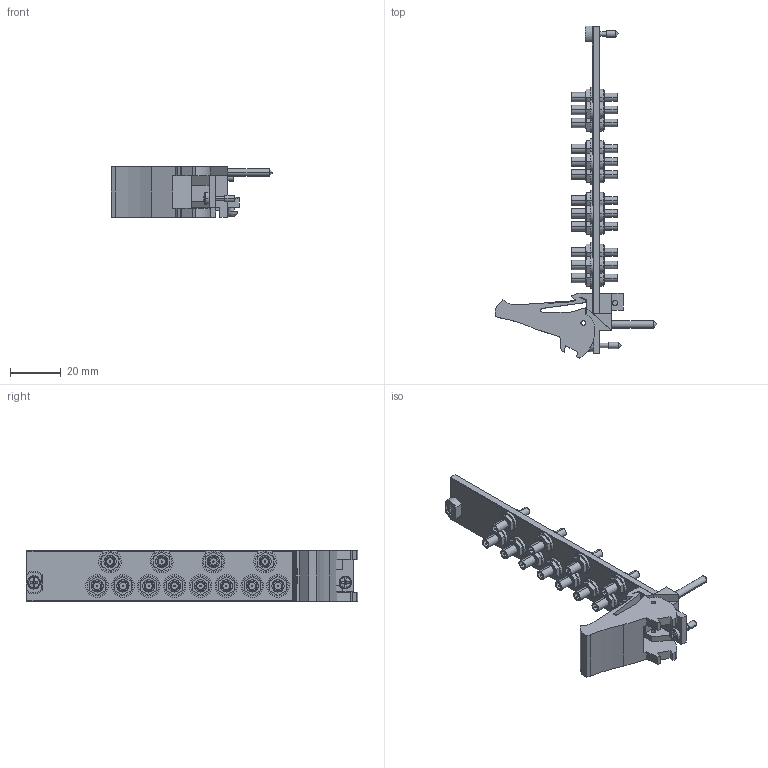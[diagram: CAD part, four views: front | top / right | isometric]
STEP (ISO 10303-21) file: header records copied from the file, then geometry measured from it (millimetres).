
FILE_DESCRIPTION((''),'2;1');
FILE_NAME('CU_PXI-2558','2009-10-05T',('jjorden'),(''),'PRO/ENGINEER BY PARAMETRIC TECHNOLOGY CORPORATION, 2006080','PRO/ENGINEER BY PARAMETRIC TECHNOLOGY CORPORATION, 2006080','');
FILE_SCHEMA(('CONFIG_CONTROL_DESIGN'));
Length unit declared in the file: inch
Products named in the file (1): CU_PXI-2558
Bounding box: 63.53 x 130.5 x 20.02 mm (x, y, z)
Volume: 16846.6 mm3; surface area: 17681.7 mm2
Topology: 1 solids, 1 shells, 814 faces, 1866 edges, 1206 vertices
Faces by surface type: plane 454, cylinder 302, cone 38, sphere 8, torus 6, bspline 6
Entity records: 23485 total; most frequent: CARTESIAN_POINT 4398, DIRECTION 4145, ORIENTED_EDGE 3716, EDGE_CURVE 1858, AXIS2_PLACEMENT_3D 1510, VERTEX_POINT 1225, VECTOR 1125, LINE 1125
